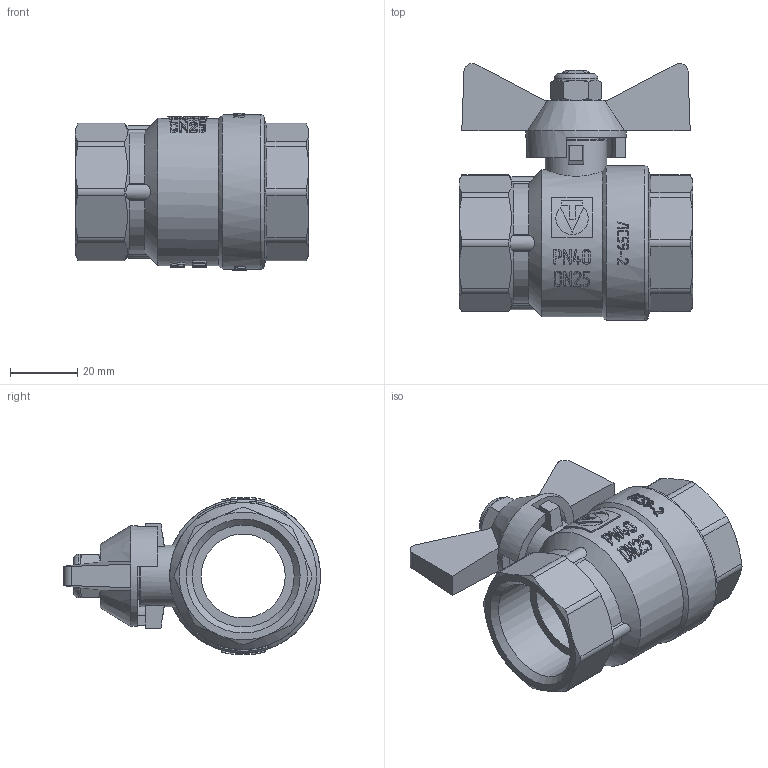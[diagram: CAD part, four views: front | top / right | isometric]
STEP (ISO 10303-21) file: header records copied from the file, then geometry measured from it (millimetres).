
FILE_DESCRIPTION(('STEP AP203'), '1');
FILE_NAME('VT.217S.N.06', '', ('UNSPECIFIED'), ('UNSPECIFIED'), 'C3D Converter', 'C3D Toolkit', '');
FILE_SCHEMA(('CONFIG_CONTROL_DESIGN'));
Length unit declared in the file: millimetre
Products named in the file (1): ВР.491812.052.000 СБ
Bounding box: 69.5 x 76.5 x 47 mm (x, y, z)
Volume: 67285.3 mm3; surface area: 23569.7 mm2
Topology: 1 solids, 1 shells, 827 faces, 2269 edges, 1496 vertices
Faces by surface type: extrusion 371, plane 310, cylinder 89, cone 54, torus 3
Full cylindrical faces by diameter (mm): 9.5 x1, 12.1 x1, 13 x1, 14 x1, 18.3 x1, 24 x1, 25 x1, 30 x1, 30.292 x2, 43.8 x1, 46 x1
Entity records: 43651 total; most frequent: CARTESIAN_POINT 24416, ORIENTED_EDGE 4468, DIRECTION 2893, EDGE_CURVE 2234, VERTEX_POINT 1491, VECTOR 1291, B_SPLINE_CURVE_WITH_KNOTS 1283, LINE 920
